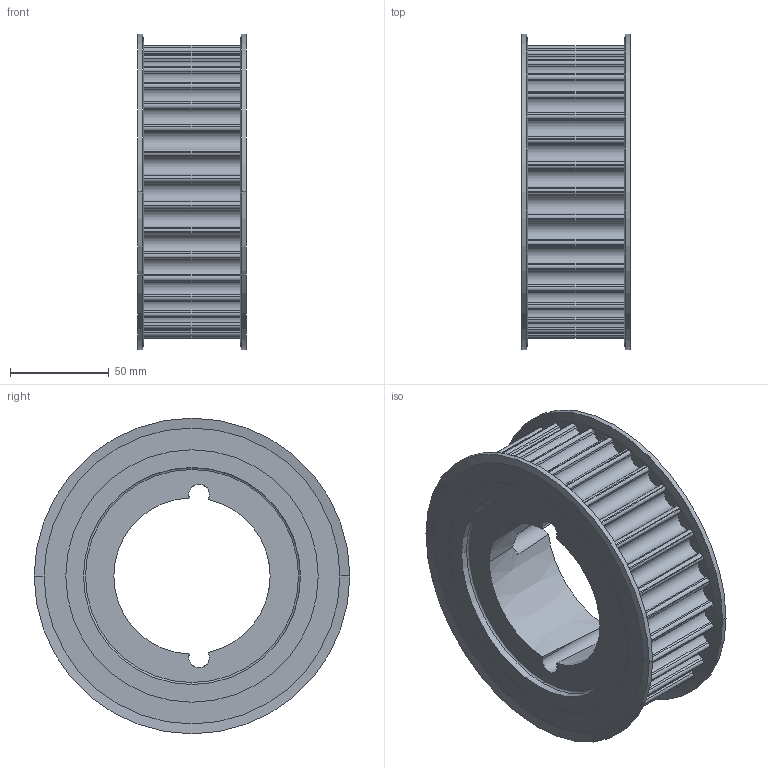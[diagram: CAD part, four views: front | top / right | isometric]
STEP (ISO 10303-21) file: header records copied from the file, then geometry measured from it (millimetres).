
FILE_DESCRIPTION( ( '' ), '1' );
FILE_NAME( 'C:/Users/Stangenbergd/Documents/CAD_Step/1/17677117.stp', '2021-10-19T10:23:05', ( '' ), ( '' ), ' ', ' ', ' ' );
FILE_SCHEMA( ( 'CONFIG_CONTROL_DESIGN' ) );
Length unit declared in the file: millimetre
Products named in the file (1): 1
Bounding box: 55.11 x 160 x 160 mm (x, y, z)
Volume: 533814.1 mm3; surface area: 89761.8 mm2
Topology: 1 solids, 1 shells, 250 faces, 721 edges, 477 vertices
Faces by surface type: cylinder 156, plane 76, cone 14, torus 4
Entity records: 8517 total; most frequent: CARTESIAN_POINT 1595, DIRECTION 1547, ORIENTED_EDGE 1438, EDGE_CURVE 719, AXIS2_PLACEMENT_3D 589, VERTEX_POINT 477, LINE 369, VECTOR 369
